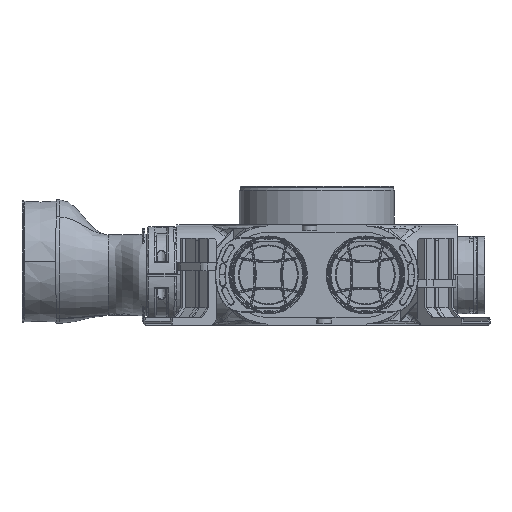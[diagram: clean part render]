
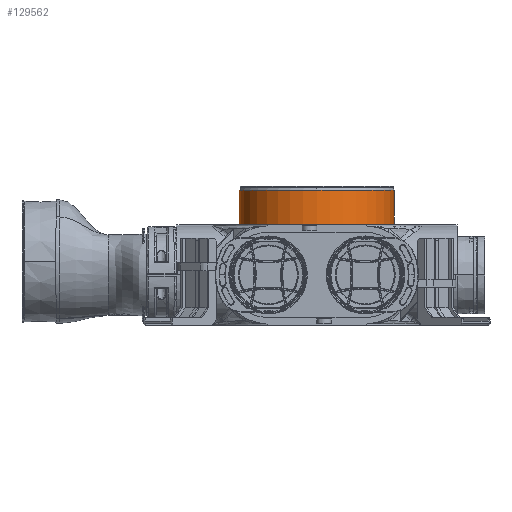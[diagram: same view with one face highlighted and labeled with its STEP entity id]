
A CAD part, top view. The second image highlights one B-rep face of the part: STEP entity #129562.
In plain terms, the highlighted cylindrical face has radius 80 mm (diameter 160 mm), a partial arc.
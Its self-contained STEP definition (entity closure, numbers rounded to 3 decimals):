
#115627=CARTESIAN_POINT('',(0.,-50.5,0.));
#115628=DIRECTION('',(0.,-1.,0.));
#115629=DIRECTION('',(-1.,0.,0.));
#115630=AXIS2_PLACEMENT_3D('',#115627,#115628,#115629);
#115632=DIRECTION('',(0.,1.,0.));
#115633=VECTOR('',#115632,37.);
#115634=CARTESIAN_POINT('',(-80.,-87.5,0.));
#115635=LINE('',#115634,#115633);
#115636=DIRECTION('',(0.,1.,0.));
#115637=VECTOR('',#115636,37.);
#115638=CARTESIAN_POINT('',(80.,-87.5,0.));
#115639=LINE('',#115638,#115637);
#115640=CARTESIAN_POINT('',(0.,-87.5,0.));
#115641=DIRECTION('',(0.,1.,0.));
#115642=DIRECTION('',(0.,0.,-1.));
#115643=AXIS2_PLACEMENT_3D('',#115640,#115641,#115642);
#115663=CARTESIAN_POINT('',(0.,-87.5,0.));
#115664=DIRECTION('',(0.,1.,0.));
#115665=DIRECTION('',(1.,0.,0.));
#115666=AXIS2_PLACEMENT_3D('',#115663,#115664,#115665);
#118873=CARTESIAN_POINT('',(80.,-50.5,0.));
#118874=CARTESIAN_POINT('',(-80.,-50.5,0.));
#118875=VERTEX_POINT('',#118873);
#118876=VERTEX_POINT('',#118874);
#118877=CARTESIAN_POINT('',(-80.,-87.5,0.));
#118878=VERTEX_POINT('',#118877);
#118879=CARTESIAN_POINT('',(80.,-87.5,0.));
#118880=VERTEX_POINT('',#118879);
#118883=CARTESIAN_POINT('',(0.,-87.5,-80.));
#118884=VERTEX_POINT('',#118883);
#129548=CARTESIAN_POINT('',(0.,-50.5,0.));
#129549=DIRECTION('',(0.,-1.,0.));
#129550=DIRECTION('',(-1.,0.,0.));
#129551=AXIS2_PLACEMENT_3D('',#129548,#129549,#129550);
#129552=CYLINDRICAL_SURFACE('',#129551,80.);
#129553=ORIENTED_EDGE('',*,*,#129536,.F.);
#129555=ORIENTED_EDGE('',*,*,#129554,.F.);
#129557=ORIENTED_EDGE('',*,*,#129556,.F.);
#129558=ORIENTED_EDGE('',*,*,#129539,.T.);
#129559=ORIENTED_EDGE('',*,*,#129526,.F.);
#129560=EDGE_LOOP('',(#129553,#129555,#129557,#129558,#129559));
#129561=FACE_OUTER_BOUND('',#129560,.F.);
#129562=ADVANCED_FACE('',(#129561),#129552,.T.);
#115631=CIRCLE('',#115630,80.);
#115644=CIRCLE('',#115643,80.);
#115667=CIRCLE('',#115666,80.);
#129526=EDGE_CURVE('',#118876,#118875,#115631,.T.);
#129536=EDGE_CURVE('',#118878,#118876,#115635,.T.);
#129539=EDGE_CURVE('',#118880,#118875,#115639,.T.);
#129554=EDGE_CURVE('',#118884,#118878,#115644,.T.);
#129556=EDGE_CURVE('',#118880,#118884,#115667,.T.);
